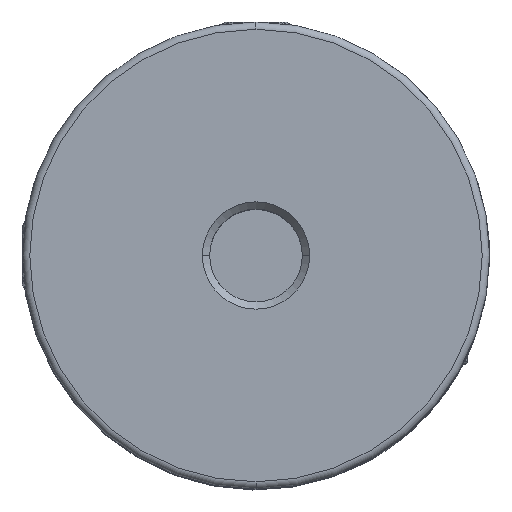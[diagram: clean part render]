
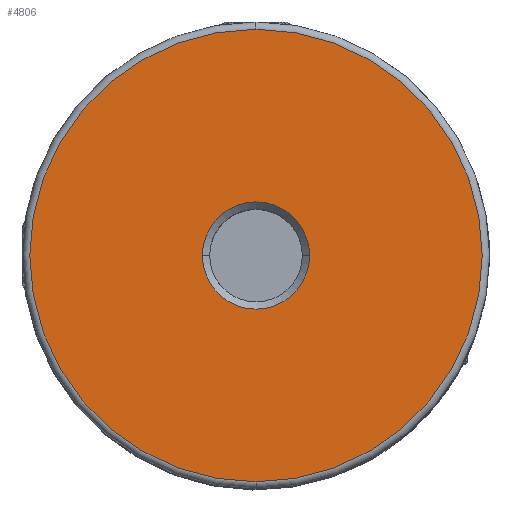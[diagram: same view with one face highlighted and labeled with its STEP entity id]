
A CAD part, top view. The second image highlights one B-rep face of the part: STEP entity #4806.
In plain terms, the highlighted planar face has unit normal (0, 0, 1).
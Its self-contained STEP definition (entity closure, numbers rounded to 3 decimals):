
#51 = CIRCLE ( 'NONE', #905, 3.675 ) ;
#242 = CIRCLE ( 'NONE', #969, 15.5 ) ;
#586 = CIRCLE ( 'NONE', #1030, 3.675 ) ;
#587 = CIRCLE ( 'NONE', #1031, 15.5 ) ;
#846 = AXIS2_PLACEMENT_3D ( 'NONE', #4632, #4622, #4621 ) ;
#905 = AXIS2_PLACEMENT_3D ( 'NONE', #6029, #6027, #6022 ) ;
#969 = AXIS2_PLACEMENT_3D ( 'NONE', #3577, #3576, #3575 ) ;
#1030 = AXIS2_PLACEMENT_3D ( 'NONE', #2775, #2774, #2773 ) ;
#1031 = AXIS2_PLACEMENT_3D ( 'NONE', #2772, #2771, #2770 ) ;
#1304 = EDGE_LOOP ( 'NONE', ( #5312, #5378 ) ) ;
#1344 = EDGE_LOOP ( 'NONE', ( #5315, #5377 ) ) ;
#1764 = VERTEX_POINT ( 'NONE', #4467 ) ;
#1785 = VERTEX_POINT ( 'NONE', #4438 ) ;
#2175 = FACE_BOUND ( 'NONE', #1344, .T. ) ;
#2178 = FACE_OUTER_BOUND ( 'NONE', #1304, .T. ) ;
#2770 = DIRECTION ( 'NONE',  ( 0., 1., 0. ) ) ;
#2771 = DIRECTION ( 'NONE',  ( 0., 0., 1. ) ) ;
#2772 = CARTESIAN_POINT ( 'NONE',  ( 0., 0., 15.95 ) ) ;
#2773 = DIRECTION ( 'NONE',  ( -1., 0., 0. ) ) ;
#2774 = DIRECTION ( 'NONE',  ( 0., 0., -1. ) ) ;
#2775 = CARTESIAN_POINT ( 'NONE',  ( 0., 0., 15.95 ) ) ;
#3106 = VERTEX_POINT ( 'NONE', #4327 ) ;
#3107 = VERTEX_POINT ( 'NONE', #4319 ) ;
#3575 = DIRECTION ( 'NONE',  ( 0., 1., 0. ) ) ;
#3576 = DIRECTION ( 'NONE',  ( 0., 0., 1. ) ) ;
#3577 = CARTESIAN_POINT ( 'NONE',  ( 0., 0., 15.95 ) ) ;
#4319 = CARTESIAN_POINT ( 'NONE',  ( 0., 15.5, 15.95 ) ) ;
#4327 = CARTESIAN_POINT ( 'NONE',  ( 0., -15.5, 15.95 ) ) ;
#4438 = CARTESIAN_POINT ( 'NONE',  ( 3.675, 0., 15.95 ) ) ;
#4467 = CARTESIAN_POINT ( 'NONE',  ( -3.675, 0., 15.95 ) ) ;
#4621 = DIRECTION ( 'NONE',  ( 0., 1., 0. ) ) ;
#4622 = DIRECTION ( 'NONE',  ( 0., 0., -1. ) ) ;
#4625 = PLANE ( 'NONE',  #846 ) ;
#4632 = CARTESIAN_POINT ( 'NONE',  ( 0., 0., 15.95 ) ) ;
#4806 = ADVANCED_FACE ( 'NONE', ( #2175, #2178 ), #4625, .F. ) ;
#5312 = ORIENTED_EDGE ( 'NONE', *, *, #6499, .T. ) ;
#5315 = ORIENTED_EDGE ( 'NONE', *, *, #6139, .T. ) ;
#5377 = ORIENTED_EDGE ( 'NONE', *, *, #6498, .T. ) ;
#5378 = ORIENTED_EDGE ( 'NONE', *, *, #6268, .T. ) ;
#6022 = DIRECTION ( 'NONE',  ( -1., 0., 0. ) ) ;
#6027 = DIRECTION ( 'NONE',  ( 0., 0., -1. ) ) ;
#6029 = CARTESIAN_POINT ( 'NONE',  ( 0., 0., 15.95 ) ) ;
#6139 = EDGE_CURVE ( 'NONE', #1785, #1764, #51, .T. ) ;
#6268 = EDGE_CURVE ( 'NONE', #3106, #3107, #242, .T. ) ;
#6498 = EDGE_CURVE ( 'NONE', #1764, #1785, #586, .T. ) ;
#6499 = EDGE_CURVE ( 'NONE', #3107, #3106, #587, .T. ) ;
